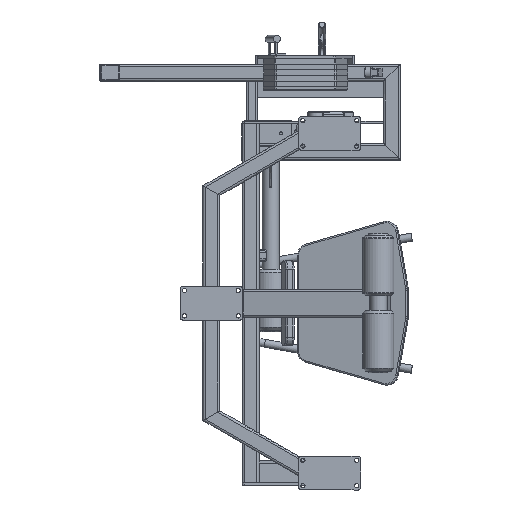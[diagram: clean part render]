
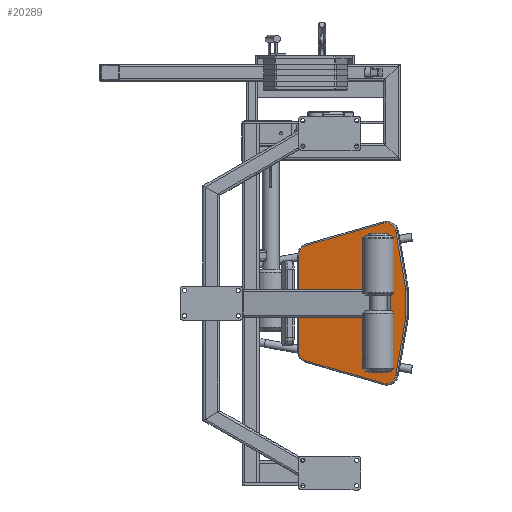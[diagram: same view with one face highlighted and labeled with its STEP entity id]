
A CAD part, front view. The second image highlights one B-rep face of the part: STEP entity #20289.
In plain terms, the highlighted planar face has unit normal (-0.174, -0.985, 0).
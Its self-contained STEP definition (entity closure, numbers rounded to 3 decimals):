
#1109=PLANE('',#22194);
#2079=FACE_OUTER_BOUND('',#3406,.T.);
#3406=EDGE_LOOP('',(#16915,#16916,#16917,#16918,#16919,#16920,#16921,#16922,
#16923,#16924,#16925,#16926));
#5117=LINE('',#34813,#6906);
#5118=LINE('',#34815,#6907);
#5119=LINE('',#34819,#6908);
#5120=LINE('',#34823,#6909);
#5121=LINE('',#34827,#6910);
#5122=LINE('',#34831,#6911);
#6906=VECTOR('',#27005,1000.);
#6907=VECTOR('',#27006,1000.);
#6908=VECTOR('',#27009,1000.);
#6909=VECTOR('',#27012,1000.);
#6910=VECTOR('',#27015,1000.);
#6911=VECTOR('',#27018,1000.);
#8001=CIRCLE('',#22175,35.);
#8012=CIRCLE('',#22195,35.);
#8013=CIRCLE('',#22196,35.);
#8014=CIRCLE('',#22197,35.);
#8015=CIRCLE('',#22198,35.);
#8016=CIRCLE('',#22199,35.);
#9585=VERTEX_POINT('',#34728);
#9586=VERTEX_POINT('',#34729);
#9619=VERTEX_POINT('',#34812);
#9620=VERTEX_POINT('',#34814);
#9621=VERTEX_POINT('',#34816);
#9622=VERTEX_POINT('',#34818);
#9623=VERTEX_POINT('',#34820);
#9624=VERTEX_POINT('',#34822);
#9625=VERTEX_POINT('',#34824);
#9626=VERTEX_POINT('',#34826);
#9627=VERTEX_POINT('',#34828);
#9628=VERTEX_POINT('',#34830);
#12114=EDGE_CURVE('',#9585,#9586,#8001,.T.);
#12155=EDGE_CURVE('',#9619,#9585,#5117,.T.);
#12156=EDGE_CURVE('',#9586,#9620,#5118,.T.);
#12157=EDGE_CURVE('',#9620,#9621,#8012,.T.);
#12158=EDGE_CURVE('',#9621,#9622,#5119,.T.);
#12159=EDGE_CURVE('',#9622,#9623,#8013,.T.);
#12160=EDGE_CURVE('',#9623,#9624,#5120,.T.);
#12161=EDGE_CURVE('',#9624,#9625,#8014,.T.);
#12162=EDGE_CURVE('',#9625,#9626,#5121,.T.);
#12163=EDGE_CURVE('',#9626,#9627,#8015,.T.);
#12164=EDGE_CURVE('',#9627,#9628,#5122,.T.);
#12165=EDGE_CURVE('',#9628,#9619,#8016,.T.);
#16915=ORIENTED_EDGE('',*,*,#12155,.T.);
#16916=ORIENTED_EDGE('',*,*,#12114,.T.);
#16917=ORIENTED_EDGE('',*,*,#12156,.T.);
#16918=ORIENTED_EDGE('',*,*,#12157,.T.);
#16919=ORIENTED_EDGE('',*,*,#12158,.T.);
#16920=ORIENTED_EDGE('',*,*,#12159,.T.);
#16921=ORIENTED_EDGE('',*,*,#12160,.T.);
#16922=ORIENTED_EDGE('',*,*,#12161,.T.);
#16923=ORIENTED_EDGE('',*,*,#12162,.T.);
#16924=ORIENTED_EDGE('',*,*,#12163,.T.);
#16925=ORIENTED_EDGE('',*,*,#12164,.T.);
#16926=ORIENTED_EDGE('',*,*,#12165,.T.);
#20289=ADVANCED_FACE('',(#2079),#1109,.F.);
#22175=AXIS2_PLACEMENT_3D('',#34730,#26935,#26936);
#22194=AXIS2_PLACEMENT_3D('',#34811,#27003,#27004);
#22195=AXIS2_PLACEMENT_3D('',#34817,#27007,#27008);
#22196=AXIS2_PLACEMENT_3D('',#34821,#27010,#27011);
#22197=AXIS2_PLACEMENT_3D('',#34825,#27013,#27014);
#22198=AXIS2_PLACEMENT_3D('',#34829,#27016,#27017);
#22199=AXIS2_PLACEMENT_3D('',#34832,#27019,#27020);
#26935=DIRECTION('center_axis',(-0.174,-0.985,0.));
#26936=DIRECTION('ref_axis',(0.,0.,
-1.));
#27003=DIRECTION('center_axis',(0.174,0.985,0.));
#27004=DIRECTION('ref_axis',(0.,0.,
-1.));
#27005=DIRECTION('',(0.947,-0.167,-0.275));
#27006=DIRECTION('',(0.171,-0.03,0.985));
#27007=DIRECTION('center_axis',(-0.174,-0.985,0.));
#27008=DIRECTION('ref_axis',(0.,0.,
-1.));
#27009=DIRECTION('',(0.,0.,1.));
#27010=DIRECTION('center_axis',(-0.174,-0.985,0.));
#27011=DIRECTION('ref_axis',(0.,0.,
-1.));
#27012=DIRECTION('',(-0.171,0.03,0.985));
#27013=DIRECTION('center_axis',(-0.174,-0.985,0.));
#27014=DIRECTION('ref_axis',(0.,0.,
-1.));
#27015=DIRECTION('',(-0.947,0.167,-0.275));
#27016=DIRECTION('center_axis',(-0.174,-0.985,0.));
#27017=DIRECTION('ref_axis',(0.,0.,
-1.));
#27018=DIRECTION('',(0.,0.,-1.));
#27019=DIRECTION('center_axis',(-0.174,-0.985,0.));
#27020=DIRECTION('ref_axis',(0.,0.,
-1.));
#34728=CARTESIAN_POINT('',(537.812,624.444,49.4));
#34729=CARTESIAN_POINT('',(581.226,616.789,76.976));
#34730=CARTESIAN_POINT('Origin',(547.281,622.774,83.054));
#34811=CARTESIAN_POINT('Origin',(578.485,617.272,632.4));
#34812=CARTESIAN_POINT('',(263.726,672.772,128.919));
#34813=CARTESIAN_POINT('',(423.755,644.555,82.491));
#34814=CARTESIAN_POINT('',(616.45,610.578,279.822));
#34815=CARTESIAN_POINT('',(674.683,600.31,615.176));
#34816=CARTESIAN_POINT('',(616.973,610.485,285.9));
#34817=CARTESIAN_POINT('Origin',(582.505,616.563,285.9));
#34818=CARTESIAN_POINT('',(616.973,610.485,378.901));
#34819=CARTESIAN_POINT('',(616.973,610.485,378.901));
#34820=CARTESIAN_POINT('',(616.45,610.578,384.978));
#34821=CARTESIAN_POINT('Origin',(582.505,616.563,378.901));
#34822=CARTESIAN_POINT('',(581.226,616.789,587.824));
#34823=CARTESIAN_POINT('',(573.636,618.127,631.532));
#34824=CARTESIAN_POINT('',(537.812,624.444,615.4));
#34825=CARTESIAN_POINT('Origin',(547.281,622.774,581.746));
#34826=CARTESIAN_POINT('',(263.726,672.772,535.881));
#34827=CARTESIAN_POINT('',(579.838,617.033,627.592));
#34828=CARTESIAN_POINT('',(238.727,677.181,502.228));
#34829=CARTESIAN_POINT('Origin',(273.195,671.103,502.228));
#34830=CARTESIAN_POINT('',(238.727,677.181,162.572));
#34831=CARTESIAN_POINT('',(238.727,677.181,632.4));
#34832=CARTESIAN_POINT('Origin',(273.195,671.103,162.572));
